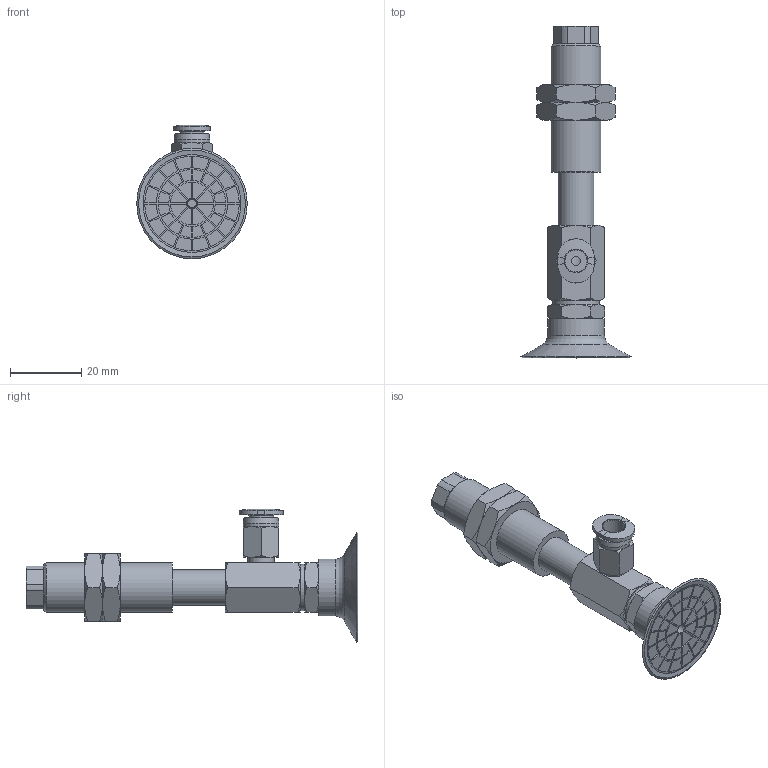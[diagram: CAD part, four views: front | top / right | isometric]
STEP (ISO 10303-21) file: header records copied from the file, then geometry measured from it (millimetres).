
FILE_DESCRIPTION(('STEP AP203'),'1');
FILE_NAME('-O.stp','2025-02-28T06:45:33',(' '),(' '),'Spatial InterOp 3D',' ',' ');
FILE_SCHEMA(('CONFIG_CONTROL_DESIGN'));
Length unit declared in the file: millimetre
Products named in the file (8): BNABPAYS-30B-15-※-O; NAPAYS-30B-15--M; NAPAYS-30B-15--F; Nut-25-S; CONNECTOR-30B-15-PA; TN-PA-30B-M6; PC-C_06-M5; BPAG-30B-※_3D
Assembly tree (8 placements, depth 2):
  BNABPAYS-30B-15-※-O
    NAPAYS-30B-15--M
    NAPAYS-30B-15--F
    Nut-25-S  x2
    CONNECTOR-30B-15-PA
    TN-PA-30B-M6
    PC-C_06-M5
    BPAG-30B-※_3D
Bounding box: 31.04 x 93.2 x 37.5 mm (x, y, z)
Volume: 15977.6 mm3; surface area: 13186.3 mm2
Topology: 7 solids, 10 shells, 415 faces, 945 edges, 600 vertices
Faces by surface type: plane 212, cylinder 107, cone 81, torus 8, bspline 4, revolution 3
Full cylindrical faces by diameter (mm): 2.5 x1, 3 x2, 4 x2, 4.134 x2, 4.917 x1, 5 x2, 6 x3, 7 x1, 7.4 x1, 8.2 x1, 10 x5, 12.917 x2, 13 x1, 14 x1, 16 x1, 27.5 x1
Entity records: 11634 total; most frequent: CARTESIAN_POINT 2591, DIRECTION 1827, ORIENTED_EDGE 1668, EDGE_CURVE 836, AXIS2_PLACEMENT_3D 700, VERTEX_POINT 564, EDGE_LOOP 510, LINE 424
